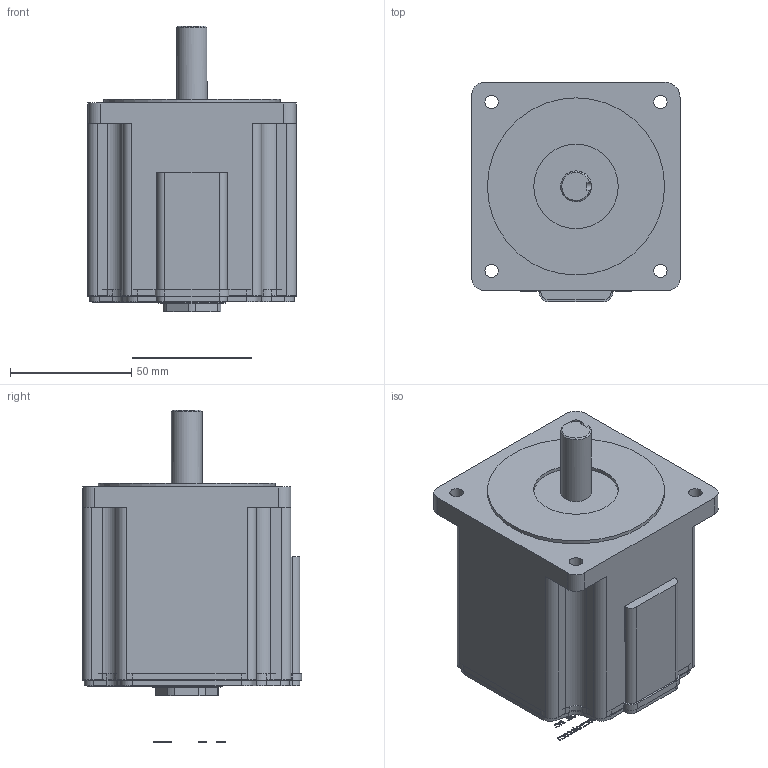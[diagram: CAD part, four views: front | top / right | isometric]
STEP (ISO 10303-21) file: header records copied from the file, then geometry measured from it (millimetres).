
FILE_DESCRIPTION(/* description */ ('Alibre Inc.'),/* implementation_level */ '2;1');
FILE_NAME(/* name */ 'export0',/* time_stamp */ '2008-02-05T12:54:09-08:00',/* author */ (''),/* organization */ (''),/* preprocessor_version */ 'ST-DEVELOPER v10',/* originating_system */ 'Alibre',/* authorisation */ '');
FILE_SCHEMA (('ALIBRE_SCHEMA','CONFIG_CONTROL_DESIGN'));
Length unit declared in the file: centimetre
Products named in the file (9): ID_1
Bounding box: 86.11 x 90.42 x 136.91 mm (x, y, z)
Volume: 580456.1 mm3; surface area: 95526.1 mm2
Topology: 63 solids, 64 shells, 1451 faces, 3910 edges, 2572 vertices
Faces by surface type: plane 696, bspline 573, cylinder 165, cone 15, torus 2
Full cylindrical faces by diameter (mm): 1.216 x14, 2.286 x6, 5.537 x4, 9.525 x2, 12.7 x1, 14.732 x1, 15.24 x1, 16 x1, 19.99 x1, 21.996 x2, 23 x1, 24.435 x1, 25.4 x2, 27.94 x1, 27.991 x1, 34.798 x1, 73.025 x1
Entity records: 79896 total; most frequent: CARTESIAN_POINT 19555, ORIENTED_EDGE 7780, DIRECTION 5176, CONSTRAINTPAIRUV 4993, EDGE_CURVE 3859, PERSISTANTTOPOLOGYATTRIBUTE 3539, VECTOR 3343, REFERENCEPOINTUV 3165
